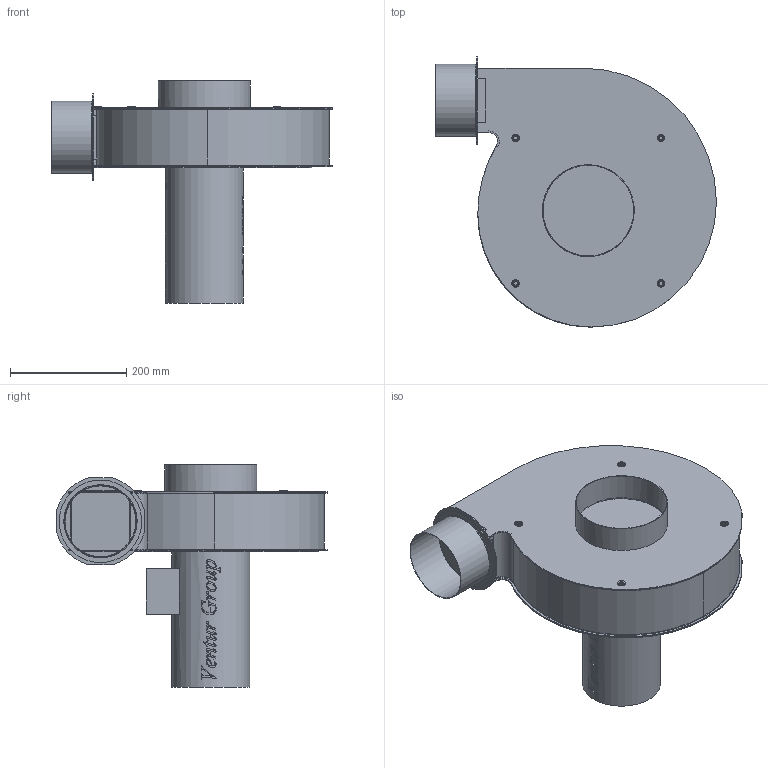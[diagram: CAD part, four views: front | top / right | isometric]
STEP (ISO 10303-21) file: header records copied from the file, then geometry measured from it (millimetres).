
FILE_DESCRIPTION(/* description */ (''),/* implementation_level */ '2;1');
FILE_NAME(/* name */ 'E:\Mariusz\Modele uproszczone\GMT\GMT_100 RD90 42551600 Spiralna\GMT_100 RD90 42551600 Spiralna\GMT_100 RD90 42551600.stp',/* time_stamp */ '2019-02-20T16:51:20+01:00',/* author */ ('M.Janczarek'),/* organization */ (''),/* preprocessor_version */ 'ST-DEVELOPER v16.13',/* originating_system */ 'Autodesk Inventor 2018',/* authorisation */ '');
FILE_SCHEMA (('AUTOMOTIVE_DESIGN { 1 0 10303 214 3 1 1 }'));
Products named in the file (1): GMT_100 RD90 42551600
Bounding box: 482.5 x 464.37 x 382 mm (x, y, z)
Volume: 18526007.9 mm3; surface area: 727760 mm2
Topology: 1 solids, 5 shells, 1516 faces, 4412 edges, 2938 vertices
Faces by surface type: plane 849, bspline 334, cylinder 321, torus 12
Full cylindrical faces by diameter (mm): 6.6 x4, 9.2 x4, 13 x4, 122 x1, 124 x1, 133.6 x1, 142 x1, 156 x1, 158 x1, 370 x1
Entity records: 56183 total; most frequent: CARTESIAN_POINT 16920, ORIENTED_EDGE 8648, DIRECTION 6790, EDGE_CURVE 4324, LINE 3044, VECTOR 3044, VERTEX_POINT 2890, AXIS2_PLACEMENT_3D 1873
